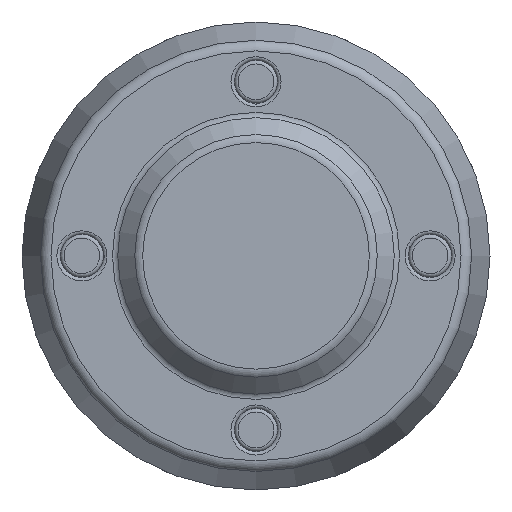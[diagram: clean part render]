
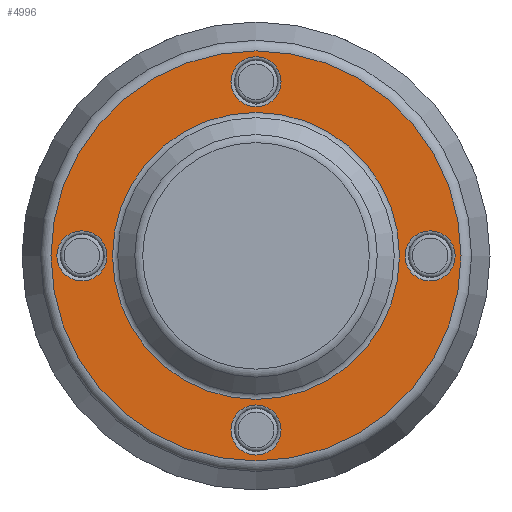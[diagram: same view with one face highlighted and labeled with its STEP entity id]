
A CAD part, top view. The second image highlights one B-rep face of the part: STEP entity #4996.
In plain terms, the highlighted planar face has unit normal (0, 0, 1).
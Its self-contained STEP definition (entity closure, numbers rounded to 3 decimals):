
#4996=ADVANCED_FACE('',(#14895,#14897,#14899,#14901,#14903,#14905),#14907,.T.);
#14895=FACE_BOUND('',#14896,.T.);
#14896=EDGE_LOOP('',(#74415));
#14897=FACE_BOUND('',#14898,.T.);
#14898=EDGE_LOOP('',(#74416));
#14899=FACE_BOUND('',#14900,.T.);
#14900=EDGE_LOOP('',(#74417));
#14901=FACE_BOUND('',#14902,.T.);
#14902=EDGE_LOOP('',(#74418));
#14903=FACE_BOUND('',#14904,.T.);
#14904=EDGE_LOOP('',(#74419));
#14905=FACE_BOUND('',#14906,.T.);
#14906=EDGE_LOOP('',(#74420));
#14907=PLANE('',#14908);
#14908=AXIS2_PLACEMENT_3D('',#14909,#14910,#14911);
#14909=CARTESIAN_POINT('',(0.,0.,-12.));
#14910=DIRECTION('',(0.,0.,1.));
#14911=DIRECTION('',(-1.,0.,0.));
#74415=ORIENTED_EDGE('',*,*,#79427,.F.);
#74416=ORIENTED_EDGE('',*,*,#79428,.F.);
#74417=ORIENTED_EDGE('',*,*,#79429,.F.);
#74418=ORIENTED_EDGE('',*,*,#79430,.T.);
#74419=ORIENTED_EDGE('',*,*,#79431,.F.);
#74420=ORIENTED_EDGE('',*,*,#79432,.F.);
#79427=EDGE_CURVE('',#84463,#84463,#84464,.T.);
#79428=EDGE_CURVE('',#84465,#84465,#84466,.F.);
#79429=EDGE_CURVE('',#84467,#84467,#84468,.F.);
#79430=EDGE_CURVE('',#84469,#84469,#84470,.T.);
#79431=EDGE_CURVE('',#84471,#84471,#84472,.F.);
#79432=EDGE_CURVE('',#84473,#84473,#84474,.F.);
#84463=VERTEX_POINT('',#113733);
#84464=CIRCLE('',#113734,109.516);
#84465=VERTEX_POINT('',#113738);
#84466=CIRCLE('',#113739,13.4);
#84467=VERTEX_POINT('',#113743);
#84468=CIRCLE('',#113744,13.4);
#84469=VERTEX_POINT('',#113748);
#84470=CIRCLE('',#113749,76.657);
#84471=VERTEX_POINT('',#113753);
#84472=CIRCLE('',#113754,13.4);
#84473=VERTEX_POINT('',#113758);
#84474=CIRCLE('',#113759,13.4);
#113733=CARTESIAN_POINT('',(-109.516,0.,-12.));
#113734=AXIS2_PLACEMENT_3D('',#113735,#113736,#113737);
#113735=CARTESIAN_POINT('',(0.,0.,-12.));
#113736=DIRECTION('',(0.,0.,-1.));
#113737=DIRECTION('',(-1.,0.,0.));
#113738=CARTESIAN_POINT('',(0.,106.4,-12.));
#113739=AXIS2_PLACEMENT_3D('',#113740,#113741,#113742);
#113740=CARTESIAN_POINT('',(0.,93.,-12.));
#113741=DIRECTION('',(0.,0.,-1.));
#113742=DIRECTION('',(0.,1.,0.));
#113743=CARTESIAN_POINT('',(0.,-106.4,-12.));
#113744=AXIS2_PLACEMENT_3D('',#113745,#113746,#113747);
#113745=CARTESIAN_POINT('',(0.,-93.,-12.));
#113746=DIRECTION('',(0.,0.,-1.));
#113747=DIRECTION('',(0.,-1.,0.));
#113748=CARTESIAN_POINT('',(-76.657,0.,-12.));
#113749=AXIS2_PLACEMENT_3D('',#113750,#113751,#113752);
#113750=CARTESIAN_POINT('',(0.,0.,-12.));
#113751=DIRECTION('',(0.,0.,-1.));
#113752=DIRECTION('',(-1.,0.,0.));
#113753=CARTESIAN_POINT('',(-106.4,0.,-12.));
#113754=AXIS2_PLACEMENT_3D('',#113755,#113756,#113757);
#113755=CARTESIAN_POINT('',(-93.,0.,-12.));
#113756=DIRECTION('',(0.,0.,-1.));
#113757=DIRECTION('',(-1.,0.,0.));
#113758=CARTESIAN_POINT('',(106.4,0.,-12.));
#113759=AXIS2_PLACEMENT_3D('',#113760,#113761,#113762);
#113760=CARTESIAN_POINT('',(93.,0.,-12.));
#113761=DIRECTION('',(0.,0.,-1.));
#113762=DIRECTION('',(1.,0.,0.));
